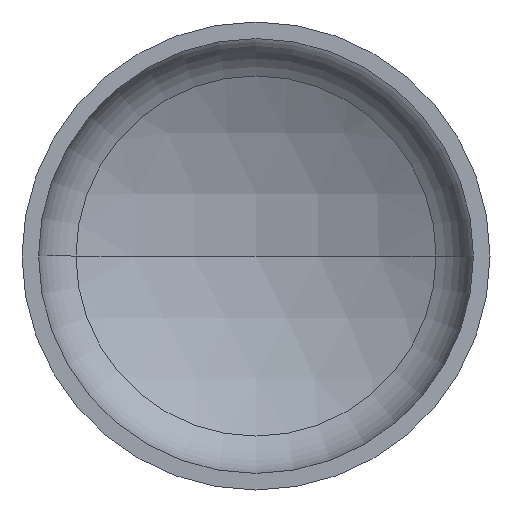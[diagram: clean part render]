
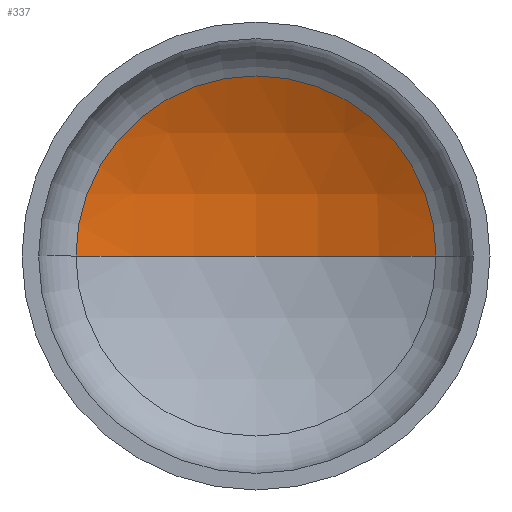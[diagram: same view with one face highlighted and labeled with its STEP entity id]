
A CAD part, front view. The second image highlights one B-rep face of the part: STEP entity #337.
In plain terms, the highlighted spherical face has radius 1040 mm.
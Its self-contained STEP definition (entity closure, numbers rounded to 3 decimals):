
#2 = AXIS2_PLACEMENT_3D ( 'NONE', #222, #250, #248 ) ;
#5 = AXIS2_PLACEMENT_3D ( 'NONE', #29, #317, #201 ) ;
#12 = AXIS2_PLACEMENT_3D ( 'NONE', #106, #107, #115 ) ;
#13 = AXIS2_PLACEMENT_3D ( 'NONE', #285, #109, #312 ) ;
#20 = CIRCLE ( 'NONE', #13, 1040. ) ;
#22 = ORIENTED_EDGE ( 'NONE', *, *, #310, .T. ) ;
#29 = CARTESIAN_POINT ( 'NONE',  ( 0., 315.349, 0. ) ) ;
#77 = CARTESIAN_POINT ( 'NONE',  ( -500.19, 315.349, 0. ) ) ;
#94 = CARTESIAN_POINT ( 'NONE',  ( 500.19, 315.349, 0. ) ) ;
#106 = CARTESIAN_POINT ( 'NONE',  ( 0., -596.467, 0. ) ) ;
#107 = DIRECTION ( 'NONE',  ( 0., 0., -1. ) ) ;
#109 = DIRECTION ( 'NONE',  ( 0., 0., 1. ) ) ;
#115 = DIRECTION ( 'NONE',  ( -1., 0., 0. ) ) ;
#122 = VERTEX_POINT ( 'NONE', #77 ) ;
#161 = CARTESIAN_POINT ( 'NONE',  ( 0., 443.533, 0. ) ) ;
#188 = CIRCLE ( 'NONE', #5, 500.19 ) ;
#201 = DIRECTION ( 'NONE',  ( 1., 0., 0. ) ) ;
#222 = CARTESIAN_POINT ( 'NONE',  ( 0., -596.467, 0. ) ) ;
#223 = VERTEX_POINT ( 'NONE', #161 ) ;
#228 = ORIENTED_EDGE ( 'NONE', *, *, #336, .T. ) ;
#248 = DIRECTION ( 'NONE',  ( -1., 0., 0. ) ) ;
#250 = DIRECTION ( 'NONE',  ( 0., 0., -1. ) ) ;
#265 = EDGE_LOOP ( 'NONE', ( #345, #22, #228 ) ) ;
#268 = CIRCLE ( 'NONE', #12, 1040. ) ;
#285 = CARTESIAN_POINT ( 'NONE',  ( 0., -596.467, 0. ) ) ;
#310 = EDGE_CURVE ( 'NONE', #223, #381, #268, .T. ) ;
#312 = DIRECTION ( 'NONE',  ( 1., 0., 0. ) ) ;
#316 = EDGE_CURVE ( 'NONE', #223, #122, #20, .T. ) ;
#317 = DIRECTION ( 'NONE',  ( 0., -1., 0. ) ) ;
#329 = FACE_OUTER_BOUND ( 'NONE', #265, .T. ) ;
#336 = EDGE_CURVE ( 'NONE', #381, #122, #188, .T. ) ;
#337 = ADVANCED_FACE ( 'NONE', ( #329 ), #403, .F. ) ;
#345 = ORIENTED_EDGE ( 'NONE', *, *, #316, .F. ) ;
#381 = VERTEX_POINT ( 'NONE', #94 ) ;
#403 = SPHERICAL_SURFACE ( 'NONE', #2, 1040. ) ;
